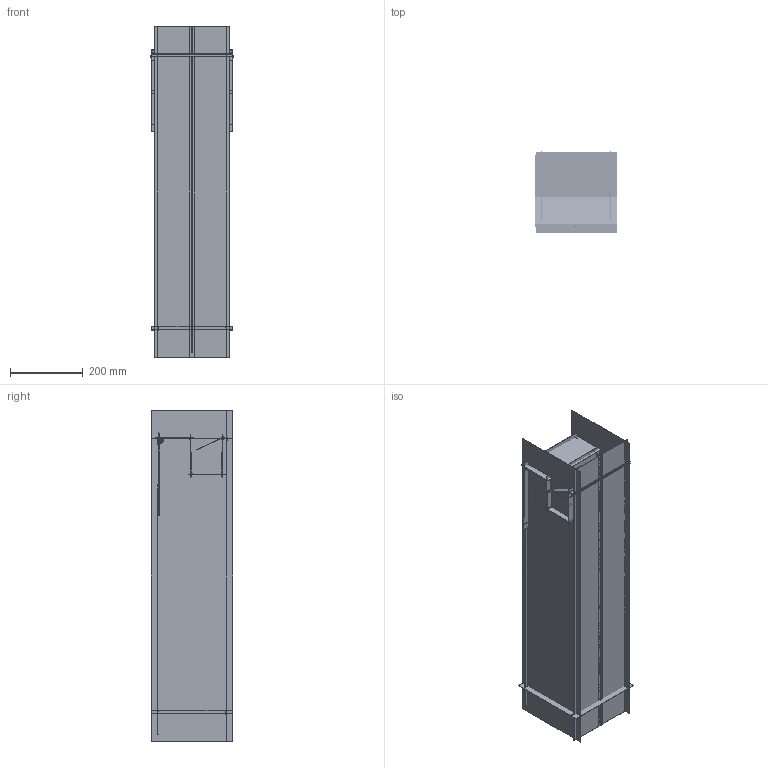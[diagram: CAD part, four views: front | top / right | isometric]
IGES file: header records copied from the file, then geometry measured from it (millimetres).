
Global section: file name: C:\Users\utente\Desktop\3d sito\LEVANZO\LEVANZO.igs; native system: Rhinoceros ( Mar  9 2011 ); preprocessor: Trout Lake IGES 012 Mar  9 2011; date: 170524.143841; units: millimetre
Bounding box: 228 x 225.6 x 912 mm (x, y, z)
Surface area: 2459591.3 mm2 (no closed solid volume)
Topology: 0 solids, 0 shells, 304 faces, 1134 edges, 1052 vertices
Faces by surface type: bspline 304
